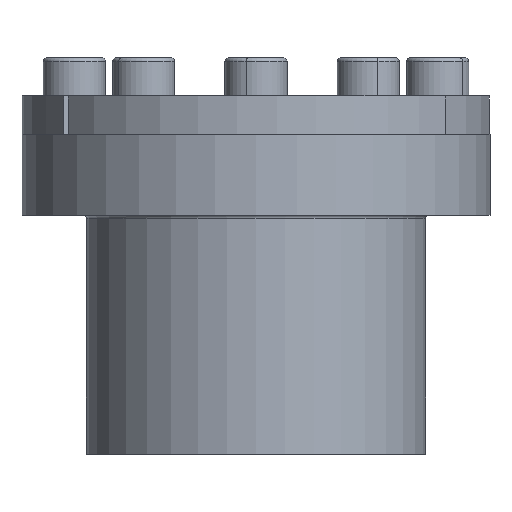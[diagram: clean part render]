
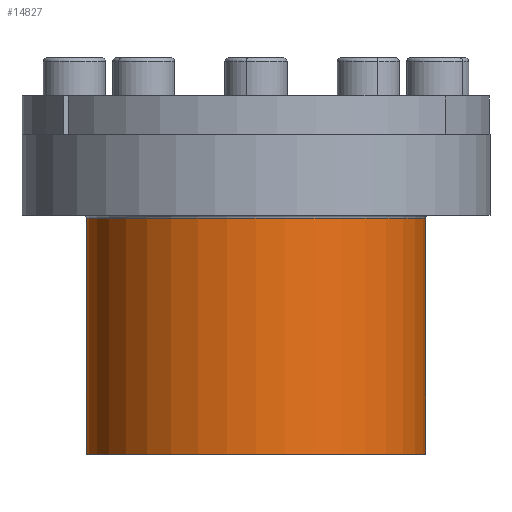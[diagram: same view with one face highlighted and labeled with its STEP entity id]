
A CAD part, front view. The second image highlights one B-rep face of the part: STEP entity #14827.
In plain terms, the highlighted cylindrical face has radius 35.5 mm (diameter 71 mm), a partial arc.
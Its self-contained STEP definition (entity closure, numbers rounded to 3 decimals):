
#140 = CARTESIAN_POINT ( 'NONE',  ( 0., 0., -61. ) ) ;
#517 = EDGE_CURVE ( 'NONE', #13125, #5406, #15555, .T. ) ;
#641 = CARTESIAN_POINT ( 'NONE',  ( 35.5, 0., -11. ) ) ;
#737 = EDGE_CURVE ( 'NONE', #6437, #5406, #1796, .T. ) ;
#1382 = DIRECTION ( 'NONE',  ( -1., 0., 0. ) ) ;
#1796 = CIRCLE ( 'NONE', #14373, 35.5 ) ;
#2189 = VECTOR ( 'NONE', #9093, 1000. ) ;
#3187 = CARTESIAN_POINT ( 'NONE',  ( -35.5, 0., -11.6 ) ) ;
#3471 = VERTEX_POINT ( 'NONE', #4559 ) ;
#3492 = DIRECTION ( 'NONE',  ( -1., 0., 0. ) ) ;
#3760 = AXIS2_PLACEMENT_3D ( 'NONE', #4155, #12602, #5362 ) ;
#4155 = CARTESIAN_POINT ( 'NONE',  ( 0., 0., -11.6 ) ) ;
#4456 = FACE_OUTER_BOUND ( 'NONE', #12964, .T. ) ;
#4529 = CARTESIAN_POINT ( 'NONE',  ( -35.5, 0., -11. ) ) ;
#4559 = CARTESIAN_POINT ( 'NONE',  ( 35.5, 0., -11.6 ) ) ;
#5075 = ORIENTED_EDGE ( 'NONE', *, *, #517, .T. ) ;
#5362 = DIRECTION ( 'NONE',  ( -1., 0., 0. ) ) ;
#5406 = VERTEX_POINT ( 'NONE', #14378 ) ;
#5877 = CARTESIAN_POINT ( 'NONE',  ( 0., 0., -11. ) ) ;
#6437 = VERTEX_POINT ( 'NONE', #14086 ) ;
#7397 = EDGE_CURVE ( 'NONE', #3471, #13125, #14259, .T. ) ;
#8142 = DIRECTION ( 'NONE',  ( 0., 0., -1. ) ) ;
#8581 = LINE ( 'NONE', #641, #2189 ) ;
#8591 = VECTOR ( 'NONE', #8142, 1000. ) ;
#8603 = DIRECTION ( 'NONE',  ( 0., 0., -1. ) ) ;
#9093 = DIRECTION ( 'NONE',  ( 0., 0., -1. ) ) ;
#9332 = CYLINDRICAL_SURFACE ( 'NONE', #10802, 35.5 ) ;
#10571 = EDGE_CURVE ( 'NONE', #3471, #6437, #8581, .T. ) ;
#10802 = AXIS2_PLACEMENT_3D ( 'NONE', #5877, #14345, #3492 ) ;
#11550 = ORIENTED_EDGE ( 'NONE', *, *, #737, .F. ) ;
#11603 = ORIENTED_EDGE ( 'NONE', *, *, #10571, .F. ) ;
#12602 = DIRECTION ( 'NONE',  ( 0., 0., -1. ) ) ;
#12964 = EDGE_LOOP ( 'NONE', ( #11603, #14828, #5075, #11550 ) ) ;
#13125 = VERTEX_POINT ( 'NONE', #3187 ) ;
#14086 = CARTESIAN_POINT ( 'NONE',  ( 35.5, 0., -61. ) ) ;
#14259 = CIRCLE ( 'NONE', #3760, 35.5 ) ;
#14345 = DIRECTION ( 'NONE',  ( 0., 0., -1. ) ) ;
#14373 = AXIS2_PLACEMENT_3D ( 'NONE', #140, #8603, #1382 ) ;
#14378 = CARTESIAN_POINT ( 'NONE',  ( -35.5, 0., -61. ) ) ;
#14827 = ADVANCED_FACE ( 'NONE', ( #4456 ), #9332, .T. ) ;
#14828 = ORIENTED_EDGE ( 'NONE', *, *, #7397, .T. ) ;
#15555 = LINE ( 'NONE', #4529, #8591 ) ;
